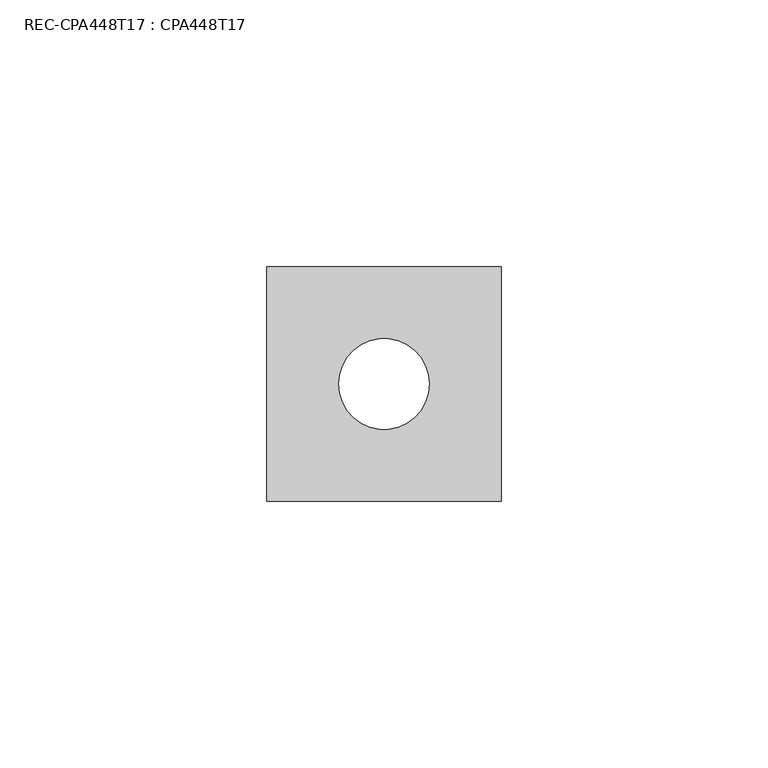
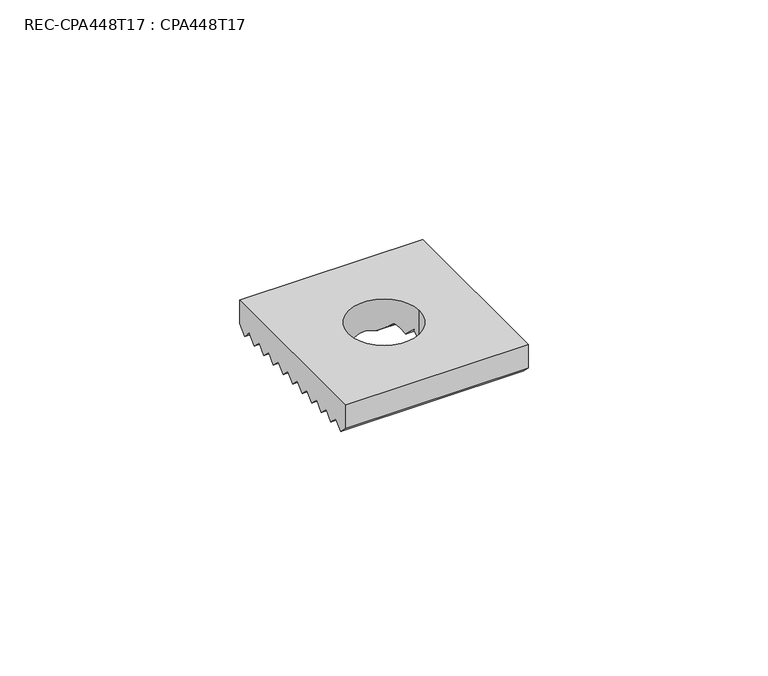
"""IFC4 building model written with IfcOpenShell, lengths in millimetres: fastener geometry, REC-CPA448T17 : CPA448T17."""

from ifc_helpers import new_model, si_unit, frame, origin, place, context, project, spatial, polyline, circle_curve, ellipse_curve, source, transform, mapped, element, save
from ifc_brep_helpers import plane_surface, revolved_surface, advanced_brep


def rec_cpa448t17_cpa448t17_96b728d6(model_context):
    return source(origin(), model_context, "Body", "AdvancedBrep", [
        advanced_brep(
        [(22.0, 20.0, 0.0), (22.0, 22.0, 2.0), (22.0, 22.0, 8.0), (22.0, -22.0, 8.0), (22.0, -22.0, 2.0), (22.0, -20.0, 0.0), (22.0, -18.0, 2.0), (22.0, -16.0, 0.0), (22.0, -14.0, 2.0), (22.0, -12.0, 0.0), (22.0, -10.0, 2.0), (22.0, -8.0, 0.0), (22.0, -6.0, 2.0), (22.0, -4.0, 0.0), (22.0, -2.0, 2.0), (22.0, 0.0, 0.0), (22.0, 2.0, 2.0), (22.0, 4.0, 0.0), (22.0, 6.0, 2.0), (22.0, 8.0, 0.0), (22.0, 10.0, 2.0), (22.0, 12.0, 0.0), (22.0, 14.0, 2.0), (22.0, 16.0, 0.0), (22.0, 18.0, 2.0), (-22.0, 20.0, 0.0), (-22.0, 18.0, 2.0), (-22.0, 16.0, 0.0), (-22.0, 14.0, 2.0), (-22.0, 12.0, 0.0), (-22.0, 10.0, 2.0), (-22.0, 8.0, 0.0), (-22.0, 6.0, 2.0), (-22.0, 4.0, 0.0), (-22.0, 2.0, 2.0), (-22.0, 0.0, 0.0), (-22.0, -2.0, 2.0), (-22.0, -4.0, 0.0), (-22.0, -6.0, 2.0), (-22.0, -8.0, 0.0), (-22.0, -10.0, 2.0), (-22.0, -12.0, 0.0), (-22.0, -14.0, 2.0), (-22.0, -16.0, 0.0), (-22.0, -18.0, 2.0), (-22.0, -20.0, 0.0), (-22.0, -22.0, 2.0), (-22.0, -22.0, 8.0), (-22.0, 22.0, 8.0), (-22.0, 22.0, 2.0), (8.5, 0.0, 8.0), (-8.5, 0.0, 8.0), (-2.8722813, -8.0, 0.0), (2.8722813, -8.0, 0.0), (6.0207973, -6.0, 2.0), (-6.0207973, -6.0, 2.0), (7.5, -4.0, 0.0), (-7.5, -4.0, 0.0), (8.2613558, -2.0, 2.0), (-8.2613558, -2.0, 2.0), (8.5, 0.0, 0.0), (-8.5, 0.0, 0.0), (8.2613558, 2.0, 2.0), (-8.2613558, 2.0, 2.0), (7.5, 4.0, 0.0), (-7.5, 4.0, 0.0), (6.0207973, 6.0, 2.0), (-6.0207973, 6.0, 2.0), (2.8722813, 8.0, 0.0), (-2.8722813, 8.0, 0.0)],
        [
            (0, 1),
            (1, 2),
            (2, 3),
            (3, 4),
            (4, 5),
            (5, 6),
            (6, 7),
            (7, 8),
            (8, 9),
            (9, 10),
            (10, 11),
            (11, 12),
            (12, 13),
            (13, 14),
            (14, 15),
            (15, 16),
            (16, 17),
            (17, 18),
            (18, 19),
            (19, 20),
            (20, 21),
            (21, 22),
            (22, 23),
            (23, 24),
            (24, 0),
            (25, 26),
            (26, 27),
            (27, 28),
            (28, 29),
            (29, 30),
            (30, 31),
            (31, 32),
            (32, 33),
            (33, 34),
            (34, 35),
            (35, 36),
            (36, 37),
            (37, 38),
            (38, 39),
            (39, 40),
            (40, 41),
            (41, 42),
            (42, 43),
            (43, 44),
            (44, 45),
            (45, 46),
            (46, 47),
            (47, 48),
            (48, 49),
            (49, 25),
            (0, 25),
            (49, 1),
            (48, 2),
            (47, 3),
            (50, 51, circle_curve(frame((0.0, 0.0, 8.0), z_axis=(0.0, 0.0, -1.0), x_axis=(1.0, 0.0, 0.0)), 8.5)),
            (51, 50, circle_curve(frame((0.0, 0.0, 8.0), z_axis=(0.0, 0.0, -1.0), x_axis=(1.0, 0.0, 0.0)), 8.5)),
            (46, 4),
            (45, 5),
            (44, 6),
            (43, 7),
            (42, 8),
            (41, 9),
            (40, 10),
            (39, 52),
            (52, 53, ellipse_curve(frame((0.0, 0.0, -8.0), z_axis=(0.0, 0.707106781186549, 0.707106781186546), x_axis=(0.0, -0.707106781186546, 0.707106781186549)), 12.0208153, 8.5)),
            (53, 11),
            (53, 54, ellipse_curve(frame((0.0, 0.0, 8.0), z_axis=(0.0, -0.707106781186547, 0.7071067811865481), x_axis=(0.0, 0.7071067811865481, 0.7071067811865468)), 12.0208153, 8.5)),
            (54, 12),
            (38, 55),
            (55, 52, ellipse_curve(frame((0.0, 0.0, 8.0), z_axis=(0.0, -0.707106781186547, 0.7071067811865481), x_axis=(0.0, 0.7071067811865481, 0.7071067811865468)), 12.0208153, 8.5)),
            (54, 56, ellipse_curve(frame((0.0, 0.0, -4.0), z_axis=(0.0, 0.7071067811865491, 0.707106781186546), x_axis=(0.0, -0.707106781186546, 0.7071067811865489)), 12.0208153, 8.5)),
            (56, 13),
            (37, 57),
            (57, 55, ellipse_curve(frame((0.0, 0.0, -4.0), z_axis=(0.0, 0.7071067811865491, 0.707106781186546), x_axis=(0.0, -0.707106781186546, 0.7071067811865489)), 12.0208153, 8.5)),
            (56, 58, ellipse_curve(frame((0.0, 0.0, 4.0), z_axis=(0.0, -0.707106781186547, 0.707106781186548), x_axis=(0.0, 0.707106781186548, 0.7071067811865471)), 12.0208153, 8.5)),
            (58, 14),
            (36, 59),
            (59, 57, ellipse_curve(frame((0.0, 0.0, 4.0), z_axis=(0.0, -0.707106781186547, 0.707106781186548), x_axis=(0.0, 0.707106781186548, 0.7071067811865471)), 12.0208153, 8.5)),
            (58, 60, ellipse_curve(frame((0.0, 0.0, 0.0), z_axis=(0.0, 0.7071067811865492, 0.7071067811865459), x_axis=(0.0, -0.707106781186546, 0.707106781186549)), 12.0208153, 8.5)),
            (60, 15),
            (35, 61),
            (61, 59, ellipse_curve(frame((0.0, 0.0, 0.0), z_axis=(0.0, 0.7071067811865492, 0.7071067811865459), x_axis=(0.0, -0.707106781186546, 0.707106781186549)), 12.0208153, 8.5)),
            (60, 62, ellipse_curve(frame((0.0, 0.0, 0.0), z_axis=(0.0, -0.707106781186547, 0.7071067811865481), x_axis=(0.0, 0.7071067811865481, 0.7071067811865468)), 12.0208153, 8.5)),
            (62, 16),
            (34, 63),
            (63, 61, ellipse_curve(frame((0.0, 0.0, 0.0), z_axis=(0.0, -0.707106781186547, 0.7071067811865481), x_axis=(0.0, 0.7071067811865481, 0.7071067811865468)), 12.0208153, 8.5)),
            (62, 64, ellipse_curve(frame((0.0, 0.0, 4.0), z_axis=(0.0, 0.7071067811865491, 0.707106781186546), x_axis=(0.0, -0.707106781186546, 0.7071067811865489)), 12.0208153, 8.5)),
            (64, 17),
            (33, 65),
            (65, 63, ellipse_curve(frame((0.0, 0.0, 4.0), z_axis=(0.0, 0.7071067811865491, 0.707106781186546), x_axis=(0.0, -0.707106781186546, 0.7071067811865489)), 12.0208153, 8.5)),
            (64, 66, ellipse_curve(frame((0.0, 0.0, -4.0), z_axis=(0.0, -0.7071067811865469, 0.7071067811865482), x_axis=(0.0, 0.7071067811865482, 0.7071067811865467)), 12.0208153, 8.5)),
            (66, 18),
            (32, 67),
            (67, 65, ellipse_curve(frame((0.0, 0.0, -4.0), z_axis=(0.0, -0.7071067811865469, 0.7071067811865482), x_axis=(0.0, 0.7071067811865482, 0.7071067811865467)), 12.0208153, 8.5)),
            (66, 68, ellipse_curve(frame((0.0, 0.0, 8.0), z_axis=(0.0, 0.7071067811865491, 0.7071067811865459), x_axis=(0.0, -0.7071067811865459, 0.707106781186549)), 12.0208153, 8.5)),
            (68, 19),
            (31, 69),
            (69, 67, ellipse_curve(frame((0.0, 0.0, 8.0), z_axis=(0.0, 0.7071067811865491, 0.7071067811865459), x_axis=(0.0, -0.7071067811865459, 0.707106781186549)), 12.0208153, 8.5)),
            (68, 69, ellipse_curve(frame((0.0, 0.0, -8.0), z_axis=(0.0, -0.7071067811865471, 0.707106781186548), x_axis=(0.0, 0.707106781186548, 0.707106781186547)), 12.0208153, 8.5)),
            (30, 20),
            (29, 21),
            (28, 22),
            (27, 23),
            (26, 24),
            (50, 60),
            (61, 51),
        ],
        [
            plane_surface(frame((22.0, 22.0, 2.0), z_axis=(1.0, 0.0, 0.0), x_axis=(0.0, 0.7071067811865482, 0.7071067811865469))),
            plane_surface(frame((-22.0, 22.0, 2.0), z_axis=(-1.0, 0.0, 0.0), x_axis=(0.0, -0.7071067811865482, -0.7071067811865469))),
            plane_surface(frame((22.0, 20.0, 0.0), z_axis=(0.0, 0.7071067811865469, -0.7071067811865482), x_axis=(-1.0, 0.0, 0.0))),
            plane_surface(frame((22.0, 22.0, 2.0), z_axis=(0.0, 1.0, 0.0), x_axis=(-1.0, 0.0, 0.0))),
            plane_surface(frame((22.0, 22.0, 8.0), z_axis=(0.0, 0.0, 1.0), x_axis=(-1.0, 0.0, 0.0))),
            plane_surface(frame((22.0, -22.0, 8.0), z_axis=(0.0, -1.0, 0.0), x_axis=(-1.0, 0.0, 0.0))),
            plane_surface(frame((22.0, -22.0, 2.0), z_axis=(0.0, -0.7071067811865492, -0.7071067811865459), x_axis=(-1.0, 0.0, 0.0))),
            plane_surface(frame((22.0, -20.0, 0.0), z_axis=(0.0, 0.7071067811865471, -0.707106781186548), x_axis=(-1.0, 0.0, 0.0))),
            plane_surface(frame((22.0, -18.0, 2.0), z_axis=(0.0, -0.7071067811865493, -0.7071067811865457), x_axis=(-1.0, 0.0, 0.0))),
            plane_surface(frame((22.0, -16.0, 0.0), z_axis=(0.0, 0.7071067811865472, -0.7071067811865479), x_axis=(-1.0, 0.0, 0.0))),
            plane_surface(frame((22.0, -14.0, 2.0), z_axis=(0.0, -0.7071067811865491, -0.7071067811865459), x_axis=(-1.0, 0.0, 0.0))),
            plane_surface(frame((22.0, -12.0, 0.0), z_axis=(0.0, 0.7071067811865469, -0.7071067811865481), x_axis=(-1.0, 0.0, 0.0))),
            plane_surface(frame((22.0, -10.0, 2.0), z_axis=(0.0, -0.707106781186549, -0.707106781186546), x_axis=(-1.0, 0.0, 0.0))),
            plane_surface(frame((22.0, -8.0, 0.0), z_axis=(0.0, 0.707106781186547, -0.7071067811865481), x_axis=(-1.0, 0.0, 0.0))),
            plane_surface(frame((22.0, -6.0, 2.0), z_axis=(0.0, -0.7071067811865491, -0.707106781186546), x_axis=(-1.0, 0.0, 0.0))),
            plane_surface(frame((22.0, -4.0, 0.0), z_axis=(0.0, 0.707106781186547, -0.707106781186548), x_axis=(-1.0, 0.0, 0.0))),
            plane_surface(frame((22.0, -2.0, 2.0), z_axis=(0.0, -0.7071067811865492, -0.7071067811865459), x_axis=(-1.0, 0.0, 0.0))),
            plane_surface(frame((22.0, 0.0, 0.0), z_axis=(0.0, 0.707106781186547, -0.7071067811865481), x_axis=(-1.0, 0.0, 0.0))),
            plane_surface(frame((22.0, 2.0, 2.0), z_axis=(0.0, -0.7071067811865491, -0.707106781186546), x_axis=(-1.0, 0.0, 0.0))),
            plane_surface(frame((22.0, 4.0, 0.0), z_axis=(0.0, 0.7071067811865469, -0.7071067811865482), x_axis=(-1.0, 0.0, 0.0))),
            plane_surface(frame((22.0, 6.0, 2.0), z_axis=(0.0, -0.7071067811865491, -0.7071067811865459), x_axis=(-1.0, 0.0, 0.0))),
            plane_surface(frame((22.0, 8.0, 0.0), z_axis=(0.0, 0.7071067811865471, -0.707106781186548), x_axis=(-1.0, 0.0, 0.0))),
            plane_surface(frame((22.0, 10.0, 2.0), z_axis=(0.0, -0.7071067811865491, -0.707106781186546), x_axis=(-1.0, 0.0, 0.0))),
            plane_surface(frame((22.0, 12.0, 0.0), z_axis=(0.0, 0.7071067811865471, -0.707106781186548), x_axis=(-1.0, 0.0, 0.0))),
            plane_surface(frame((22.0, 14.0, 2.0), z_axis=(0.0, -0.7071067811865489, -0.7071067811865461), x_axis=(-1.0, 0.0, 0.0))),
            plane_surface(frame((22.0, 16.0, 0.0), z_axis=(0.0, 0.707106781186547, -0.7071067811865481), x_axis=(-1.0, 0.0, 0.0))),
            plane_surface(frame((22.0, 18.0, 2.0), z_axis=(0.0, -0.707106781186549, -0.7071067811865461), x_axis=(-1.0, 0.0, 0.0))),
            revolved_surface(polyline([(8.5, 0.0, 16.50000001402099), (8.5, 0.0, -16.50000001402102)]), (0.0, 0.0, -8.621874), (0.0, 0.0, 1.0)),
            revolved_surface(polyline([(8.5, 0.0, 16.50000001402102), (8.5, 0.0, -16.500000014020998)]), (0.0, 0.0, -8.621874), (0.0, 0.0, 1.0)),
        ],
        [
            (0, [[1, 2, 3, 4, 5, 6, 7, 8, 9, 10, 11, 12, 13, 14, 15, 16, 17, 18, 19, 20, 21, 22, 23, 24, 25]]),
            (1, [[26, 27, 28, 29, 30, 31, 32, 33, 34, 35, 36, 37, 38, 39, 40, 41, 42, 43, 44, 45, 46, 47, 48, 49, 50]]),
            (2, [[-1, 51, -50, 52]]),
            (3, [[-2, -52, -49, 53]]),
            (4, [[-3, -53, -48, 54], [55, 56]]),
            (5, [[-4, -54, -47, 57]]),
            (6, [[-5, -57, -46, 58]]),
            (7, [[-6, -58, -45, 59]]),
            (8, [[-7, -59, -44, 60]]),
            (9, [[-8, -60, -43, 61]]),
            (10, [[-9, -61, -42, 62]]),
            (11, [[-10, -62, -41, 63]]),
            (12, [[-11, -63, -40, 64, 65, 66]]),
            (13, [[-12, -66, 67, 68]]),
            (13, [[-39, 69, 70, -64]]),
            (14, [[-13, -68, 71, 72]]),
            (14, [[-38, 73, 74, -69]]),
            (15, [[-14, -72, 75, 76]]),
            (15, [[-37, 77, 78, -73]]),
            (16, [[-15, -76, 79, 80]]),
            (16, [[-36, 81, 82, -77]]),
            (17, [[-16, -80, 83, 84]]),
            (17, [[-35, 85, 86, -81]]),
            (18, [[-17, -84, 87, 88]]),
            (18, [[-34, 89, 90, -85]]),
            (19, [[-18, -88, 91, 92]]),
            (19, [[-33, 93, 94, -89]]),
            (20, [[-19, -92, 95, 96]]),
            (20, [[-32, 97, 98, -93]]),
            (21, [[-20, -96, 99, -97, -31, 100]]),
            (22, [[-21, -100, -30, 101]]),
            (23, [[-22, -101, -29, 102]]),
            (24, [[-23, -102, -28, 103]]),
            (25, [[-24, -103, -27, 104]]),
            (26, [[-25, -104, -26, -51]]),
            (27, [[105, -79, -75, -71, -67, -65, -70, -74, -78, -82, 106, -55]]),
            (28, [[-105, -56, -106, -86, -90, -94, -98, -99, -95, -91, -87, -83]]),
        ],
    ),
    ])


if __name__ == "__main__":
    model = new_model("IFC4")
    model_context = context("Model", 3, world=origin())
    ifc_project = project(units=[si_unit("LENGTHUNIT", "METRE", prefix="MILLI")], contexts=[model_context])
    site = spatial("IfcSite", under=ifc_project)
    building = spatial("IfcBuilding", under=site)
    placement = place(None, origin())
    rec_cpa448t17_cpa448t17_shape = rec_cpa448t17_cpa448t17_96b728d6(model_context)
    element("IfcFastener", 1, ObjectType="REC-CPA448T17 : CPA448T17", at=placement, inside=building, context=model_context, shape_type="MappedRepresentation", body=[
        mapped(rec_cpa448t17_cpa448t17_shape, transform((0.0, 0.0, 0.0), x_axis=(1.0, 0.0, 0.0), y_axis=(0.0, 1.0, 0.0), z_axis=(0.0, 0.0, 1.0))),
    ])
    save(model, "model.ifc")
